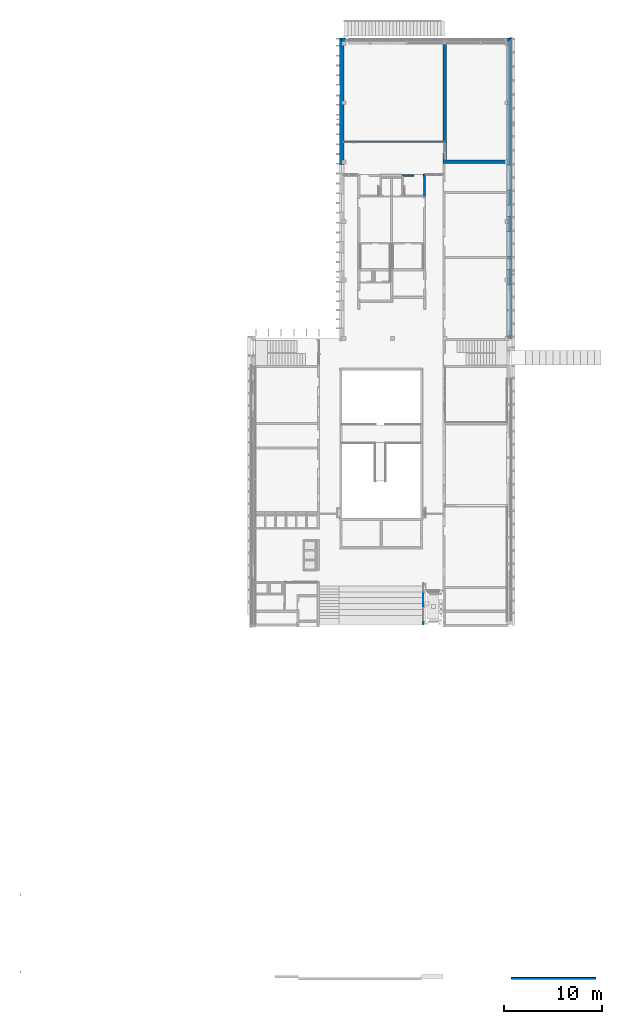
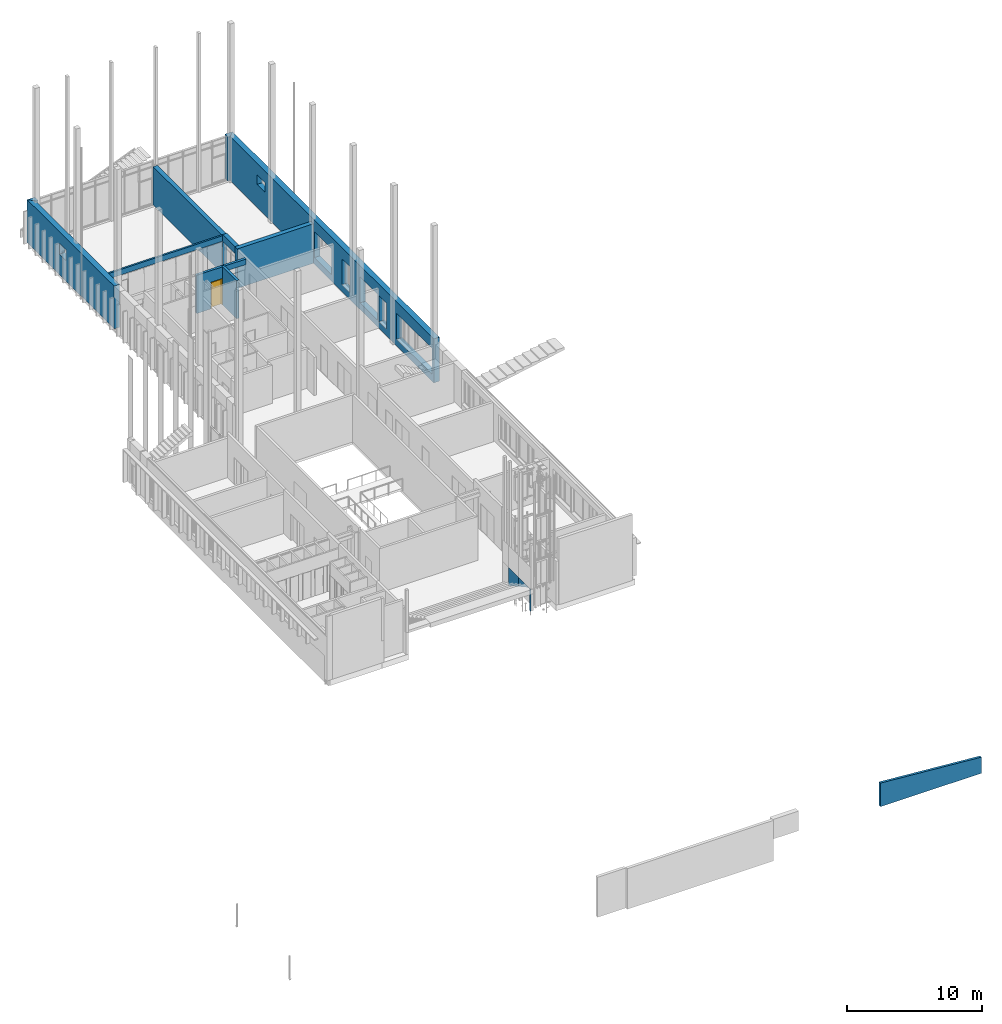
# One storey, part 17 of 89: 14 walls, 1 door, 9 openings.
"""IFC2X3 building model written with IfcOpenShell, lengths in millimetres."""

import ifcopenshell
import ifcopenshell.guid

model = None  # the IFC model being written
_history = None  # IfcOwnerHistory: only IFC2X3 demands one
_inside = {}  # id of a spatial element -> (the spatial element, [elements in it])
_under = {}  # id of a project, library or spatial element -> (it, [spatial elements below it])
_declared = {}  # id of a project -> (the project, [libraries it declares])
_typed = {}  # id of a type object -> (the type object, [elements of that type])
_made_of = {}  # id of a material, layer set ... -> (it, [elements and type objects made of it])


def new_model(schema):
    """Start an empty IFC model of exactly this schema.

    Asked for "IFC4X3", IfcOpenShell would pick the latest addendum, in which some entities
    have other attributes; the version numbers below select the first issue.
    IFC2X3 requires an IfcOwnerHistory on every rooted entity: one is made here for all.
    """
    global model, _history
    if schema == "IFC4X3":
        model = ifcopenshell.file(schema_version=(4, 3, 0, 0))
    else:
        model = ifcopenshell.file(schema=schema)
    _inside.clear()
    _under.clear()
    _declared.clear()
    _typed.clear()
    _made_of.clear()
    _history = None
    if model.schema == "IFC2X3":
        org = make("IfcOrganization", Name="unknown")
        user = make(
            "IfcPersonAndOrganization",
            ThePerson=make("IfcPerson", FamilyName="unknown"),
            TheOrganization=org,
        )
        app = make(
            "IfcApplication",
            ApplicationDeveloper=org,
            Version="unknown",
            ApplicationFullName="unknown",
            ApplicationIdentifier="unknown",
        )
        _history = make(
            "IfcOwnerHistory",
            OwningUser=user,
            OwningApplication=app,
            ChangeAction="ADDED",
            CreationDate=0,
        )
    return model


def make(cls, **values):
    """One entity of the class cls with the attributes given. An attribute that is None is left unset."""
    return model.create_entity(
        cls, **{name: value for name, value in values.items() if value is not None}
    )


def entity(cls, *values):
    """Any entity or typed value of the class cls, its attributes in the order of the schema. None: left unset."""
    e = model.create_entity(cls)
    for i, value in enumerate(values):
        if value is not None:
            e[i] = value
    return e


def rooted(cls, **values):
    """An entity with a GlobalId (a new one), such as an element, a storey or a relation."""
    return make(cls, GlobalId=ifcopenshell.guid.new(), OwnerHistory=_history, **values)


def si_unit(unit_type, name, prefix=None):
    """IfcSIUnit, for example si_unit("LENGTHUNIT", "METRE", prefix="MILLI")."""
    return make("IfcSIUnit", UnitType=unit_type, Prefix=prefix, Name=name)


def converted_unit(unit_type, name, factor, base, dimensions=None, offset=None):
    """IfcConversionBasedUnit, such as the inch: factor (a typed value) times the base unit."""
    return make(
        "IfcConversionBasedUnit"
        if offset is None
        else "IfcConversionBasedUnitWithOffset",
        ConversionOffset=offset,
        Dimensions=None
        if dimensions is None
        else entity("IfcDimensionalExponents", *dimensions),
        UnitType=unit_type,
        Name=name,
        ConversionFactor=make(
            "IfcMeasureWithUnit", ValueComponent=factor, UnitComponent=base
        ),
    )


def derived_unit(unit_type, elements):
    """IfcDerivedUnit: a product of units, each with its exponent."""
    return make(
        "IfcDerivedUnit",
        Elements=[
            make("IfcDerivedUnitElement", Unit=unit, Exponent=power)
            for unit, power in elements
        ],
        UnitType=unit_type,
    )


def money_unit(currency):
    """IfcMonetaryUnit."""
    return make("IfcMonetaryUnit", Currency=currency)


def assignment(units):
    """IfcUnitAssignment: the units of a project."""
    return None if units is None else make("IfcUnitAssignment", Units=units)


def point(xyz):
    """IfcCartesianPoint."""
    return None if xyz is None else make("IfcCartesianPoint", Coordinates=xyz)


def direction(xyz):
    """IfcDirection."""
    return None if xyz is None else make("IfcDirection", DirectionRatios=xyz)


def frame(location, z_axis=None, x_axis=None):
    """IfcAxis2Placement3D, a coordinate frame: its origin and axes. An axis left out is left unset."""
    return make(
        "IfcAxis2Placement3D",
        Location=point(location),
        Axis=direction(z_axis),
        RefDirection=direction(x_axis),
    )


def frame_2d(location, x_axis=None):
    """IfcAxis2Placement2D, a coordinate frame in the plane: its origin and x axis."""
    return make(
        "IfcAxis2Placement2D", Location=point(location), RefDirection=direction(x_axis)
    )


def origin_with_axes():
    """The frame at (0, 0, 0) with the z axis (0, 0, 1) and the x axis (1, 0, 0) written out."""
    return frame((0.0, 0.0, 0.0), z_axis=(0.0, 0.0, 1.0), x_axis=(1.0, 0.0, 0.0))


def origin_2d_with_axis():
    """The frame at (0, 0) in the plane with the x axis (1, 0) written out."""
    return frame_2d((0.0, 0.0), x_axis=(1.0, 0.0))


def place(relative_to, where):
    """IfcLocalPlacement: puts the frame where relative to a parent placement (None: the world)."""
    return make(
        "IfcLocalPlacement", PlacementRelTo=relative_to, RelativePlacement=where
    )


def context(
    kind, dimensions, precision=None, world=None, true_north=None, identifier=None
):
    """IfcGeometricRepresentationContext, for example the 3D "Model" context."""
    return make(
        "IfcGeometricRepresentationContext",
        ContextIdentifier=identifier,
        ContextType=kind,
        CoordinateSpaceDimension=dimensions,
        Precision=precision,
        WorldCoordinateSystem=world,
        TrueNorth=true_north,
    )


def subcontext(parent, identifier, kind, view, scale=None):
    """IfcGeometricRepresentationSubContext, for example "Body" below "Model"."""
    return make(
        "IfcGeometricRepresentationSubContext",
        ContextIdentifier=identifier,
        ContextType=kind,
        ParentContext=parent,
        TargetScale=scale,
        TargetView=view,
    )


def project(units=None, contexts=None):
    """IfcProject with its units and contexts."""
    return rooted(
        "IfcProject",
        Name="project",
        RepresentationContexts=contexts,
        UnitsInContext=assignment(units),
    )


def spatial(cls, under=None, at=None, **own):
    """A site, building, storey or space (cls), placed at a placement, below another one or the project."""
    s = rooted(cls, ObjectPlacement=at, **own)
    if under is not None:
        _under.setdefault(under.id(), (under, []))[1].append(s)
    return s


def polyline(points):
    """IfcPolyline through the points."""
    return make("IfcPolyline", Points=[point(p) for p in points])


def profile(cls, at=None, kind="AREA", **sizes):
    """A parametric profile (cls). Its sizes go by their IFC names, for example OverallWidth=200.0."""
    return make(cls, ProfileType=kind, Position=at, **sizes)


def rectangle(**sizes):
    """IfcRectangleProfileDef."""
    return profile("IfcRectangleProfileDef", **sizes)


def outline(outer, holes=None, kind="AREA"):
    """IfcArbitraryClosedProfileDef: a profile drawn as a closed curve; with holes, ...WithVoids."""
    if holes is None:
        return make("IfcArbitraryClosedProfileDef", ProfileType=kind, OuterCurve=outer)
    return make(
        "IfcArbitraryProfileDefWithVoids",
        ProfileType=kind,
        OuterCurve=outer,
        InnerCurves=holes,
    )


def extrude(swept, where, along, depth):
    """IfcExtrudedAreaSolid: the profile swept, set in the frame where, extruded along a direction by depth."""
    return make(
        "IfcExtrudedAreaSolid",
        SweptArea=swept,
        Position=where,
        ExtrudedDirection=direction(along),
        Depth=depth,
    )


def boolean(op, a, b):
    """IfcBooleanResult of two solids."""
    return make("IfcBooleanResult", Operator=op, FirstOperand=a, SecondOperand=b)


def faces_of(points, faces, orient=None, outer=None):
    """IfcFace entities. A face is a list of loops; a loop is a list of indices into points, from 0.

    orient and outer hold one flag for each loop. By default every Orientation is true, the
    first loop of a face is its IfcFaceOuterBound and the others are IfcFaceBound.
    """
    made = []
    for i, loops in enumerate(faces):
        bounds = []
        for j, loop in enumerate(loops):
            is_outer = j == 0 if outer is None else outer[i][j]
            bounds.append(
                make(
                    "IfcFaceOuterBound" if is_outer else "IfcFaceBound",
                    Bound=make("IfcPolyLoop", Polygon=[points[k] for k in loop]),
                    Orientation=True if orient is None else orient[i][j],
                )
            )
        made.append(make("IfcFace", Bounds=bounds))
    return made


def faceted_brep(points, faces, orient=None, outer=None, voids=None):
    """IfcFacetedBrep: a solid bounded by flat faces; with voids (closed shells), ...WithVoids."""
    shared = [point(p) for p in points]
    hull = make("IfcClosedShell", CfsFaces=faces_of(shared, faces, orient, outer))
    if voids is None:
        return make("IfcFacetedBrep", Outer=hull)
    return make(
        "IfcFacetedBrepWithVoids",
        Outer=hull,
        Voids=[
            make(cls, CfsFaces=faces_of(shared, fs, o, b)) for cls, fs, o, b in voids
        ],
    )


def shape(context_of_items, identifier, shape_type, items):
    """IfcShapeRepresentation: the items that make up one representation, for example the "Body"."""
    return make(
        "IfcShapeRepresentation",
        ContextOfItems=context_of_items,
        RepresentationIdentifier=identifier,
        RepresentationType=shape_type,
        Items=items,
    )


def source(mapping_origin, context_of_items, identifier, shape_type, items):
    """IfcRepresentationMap: a shape defined once, which mapped items show again and again."""
    return make(
        "IfcRepresentationMap",
        MappingOrigin=mapping_origin,
        MappedRepresentation=shape(context_of_items, identifier, shape_type, items),
    )


def transform(
    local_origin,
    x_axis=None,
    y_axis=None,
    z_axis=None,
    scale=None,
    scale2=None,
    scale3=None,
    uniform=True,
):
    """IfcCartesianTransformationOperator3D, or its non-uniform kind. x_axis, y_axis, z_axis: its Axis1, 2, 3."""
    if uniform:
        return make(
            "IfcCartesianTransformationOperator3D",
            Axis1=direction(x_axis),
            Axis2=direction(y_axis),
            LocalOrigin=point(local_origin),
            Scale=scale,
            Axis3=direction(z_axis),
        )
    return make(
        "IfcCartesianTransformationOperator3DnonUniform",
        Axis1=direction(x_axis),
        Axis2=direction(y_axis),
        LocalOrigin=point(local_origin),
        Scale=scale,
        Axis3=direction(z_axis),
        Scale2=scale2,
        Scale3=scale3,
    )


def mapped(mapping_source, mapping_target):
    """IfcMappedItem: shows the shape of a source again, moved by a transform."""
    return make(
        "IfcMappedItem", MappingSource=mapping_source, MappingTarget=mapping_target
    )


def material(Name=None, Category=None):
    """IfcMaterial."""
    return make("IfcMaterial", Name=Name, Category=Category)


def layer(
    of_material, thickness, ventilated=None, Name=None, Category=None, Priority=None
):
    """IfcMaterialLayer: one layer of a wall or slab, of a material (None: an air gap)."""
    return make(
        "IfcMaterialLayer",
        Material=of_material,
        LayerThickness=thickness,
        IsVentilated=ventilated,
        Name=Name,
        Category=Category,
        Priority=Priority,
    )


def layer_set(layers, Name=None):
    """IfcMaterialLayerSet."""
    return make("IfcMaterialLayerSet", MaterialLayers=layers, LayerSetName=Name)


def layer_usage(for_layer_set, set_direction, sense, offset, extent=None):
    """IfcMaterialLayerSetUsage: how a layer set lies in its element."""
    return make(
        "IfcMaterialLayerSetUsage",
        ForLayerSet=for_layer_set,
        LayerSetDirection=set_direction,
        DirectionSense=sense,
        OffsetFromReferenceLine=offset,
        ReferenceExtent=extent,
    )


def made_of(thing, what):
    """Note that an element or type object is made of a material, layer set ...; save() writes the relation."""
    if what is not None:
        _made_of.setdefault(what.id(), (what, []))[1].append(thing)
    return thing


def type_object(cls, material=None, **own):
    """A type object (cls), such as IfcWallType, which elements share."""
    return made_of(rooted(cls, **own), material)


def element(
    cls,
    number,
    at=None,
    inside=None,
    cuts=None,
    type_object=None,
    material=None,
    context=None,
    identifier="Body",
    shape_type=None,
    held_by="IfcProductDefinitionShape",
    body=None,
    shapes=None,
    **own,
):
    """One element of the class cls, such as IfcWall. Its Tag is "e" and its number.

    at: its placement. inside: the storey or other place that contains it. cuts: it is an
    opening in that element (IfcRelVoidsElement). A single representation is given by context,
    identifier, shape_type and body (its items); several are given by shapes. held_by: the class
    of the entity that holds the representations. save() writes the other relations.
    """
    e = rooted(cls, Tag="e%d" % number, ObjectPlacement=at, **own)
    if body is not None:
        shapes = [shape(context, identifier, shape_type, body)]
    if shapes is not None:
        e.Representation = make(held_by, Representations=shapes)
    if inside is not None:
        _inside.setdefault(inside.id(), (inside, []))[1].append(e)
    if cuts is not None:
        rooted(
            "IfcRelVoidsElement", RelatingBuildingElement=cuts, RelatedOpeningElement=e
        )
    if type_object is not None:
        _typed.setdefault(type_object.id(), (type_object, []))[1].append(e)
    return made_of(e, material)


def fill(opening, filler):
    """IfcRelFillsElement: the door or window that sits in an opening."""
    return rooted(
        "IfcRelFillsElement",
        RelatingOpeningElement=opening,
        RelatedBuildingElement=filler,
    )


def aggregate(whole, parts):
    """IfcRelAggregates: a whole, such as a stair, and the parts it consists of."""
    return rooted("IfcRelAggregates", RelatingObject=whole, RelatedObjects=parts)


def save(model, path):
    """Write the relations noted so far, then the file.

    IfcRelAggregates (storeys below a building ...), IfcRelContainedInSpatialStructure (elements
    in a storey), IfcRelDefinesByType, IfcRelAssociatesMaterial and IfcRelDeclares: one each for
    every whole, place, type object, material and project.
    """
    for whole, parts in _under.values():
        aggregate(whole, parts)
    for where, things in _inside.values():
        rooted(
            "IfcRelContainedInSpatialStructure",
            RelatedElements=things,
            RelatingStructure=where,
        )
    for kind, things in _typed.values():
        rooted("IfcRelDefinesByType", RelatedObjects=things, RelatingType=kind)
    for what, things in _made_of.values():
        rooted("IfcRelAssociatesMaterial", RelatedObjects=things, RelatingMaterial=what)
    for by, libraries in _declared.values():
        rooted("IfcRelDeclares", RelatingContext=by, RelatedDefinitions=libraries)
    model.write(path)


model = new_model("IFC2X3")

# Units and contexts
model_context = context("Model", 3, precision=0.01, world=origin_with_axes(), true_north=direction((0.0, 1.0)))
body_context = subcontext(model_context, "Body", "Model", "MODEL_VIEW")
ifc_project = project(units=[si_unit("LENGTHUNIT", "METRE", prefix="MILLI"), si_unit("AREAUNIT", "SQUARE_METRE"), si_unit("VOLUMEUNIT", "CUBIC_METRE"), converted_unit("PLANEANGLEUNIT", "DEGREE", entity("IfcPlaneAngleMeasure", 0.0174532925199), si_unit("PLANEANGLEUNIT", "RADIAN"), dimensions=[0, 0, 0, 0, 0, 0, 0]), si_unit("SOLIDANGLEUNIT", "STERADIAN"), money_unit("EUR"), converted_unit("TIMEUNIT", "Year", entity("IfcTimeMeasure", 31556926.0), si_unit("TIMEUNIT", "SECOND"), dimensions=[0, 0, 1, 0, 0, 0, 0]), si_unit("MASSUNIT", "GRAM", prefix="KILO"), si_unit("THERMODYNAMICTEMPERATUREUNIT", "DEGREE_CELSIUS"), si_unit("LUMINOUSINTENSITYUNIT", "LUMEN"), si_unit("ENERGYUNIT", "JOULE", prefix="MEGA"), derived_unit("THERMALCONDUCTANCEUNIT", [(si_unit("POWERUNIT", "WATT"), 1), (si_unit("LENGTHUNIT", "METRE"), -1), (si_unit("THERMODYNAMICTEMPERATUREUNIT", "KELVIN"), -1)]), derived_unit("SPECIFICHEATCAPACITYUNIT", [(si_unit("ENERGYUNIT", "JOULE"), 1), (si_unit("MASSUNIT", "GRAM", prefix="KILO"), -1), (si_unit("THERMODYNAMICTEMPERATUREUNIT", "KELVIN"), -1)]), derived_unit("MASSDENSITYUNIT", [(si_unit("MASSUNIT", "GRAM", prefix="KILO"), 1), (si_unit("VOLUMEUNIT", "CUBIC_METRE"), -1)])], contexts=[model_context])

# Site, building, storey
site_placement = place(None, origin_with_axes())
site = spatial("IfcSite", under=ifc_project, at=site_placement, Name="Puškini 31, Narva", CompositionType="ELEMENT")
building_placement = place(site_placement, origin_with_axes())
building = spatial("IfcBuilding", under=site, at=building_placement, Name="Narva Riigigümnaasium", CompositionType="ELEMENT")
storey_placement = place(building_placement, frame((0.0, 0.0, -3300.0), z_axis=(0.0, 0.0, 1.0), x_axis=(1.0, 0.0, 0.0)))
storey = spatial("IfcBuildingStorey", under=building, at=storey_placement, Name="1.korrus -3.3", CompositionType="ELEMENT", Elevation=-3300.0)

# Wall
ifc_material_1 = material(Name="KON-06_Raudbetoon - Konstruktsioon")
wall_type_1 = type_object("IfcWallType", Name="KON-06_Raudbetoon - Konstruktsioon 200", PredefinedType="NOTDEFINED")
wall_1_placement = place(storey_placement, frame((54410.000001, 158998.833548, 1180.0), z_axis=(0.0, 0.0, 1.0), x_axis=(1.0, 0.0, 0.0)))
element("IfcWall", 1, at=wall_1_placement, inside=storey, type_object=wall_type_1, material=ifc_material_1, Name="Tugimüür", context=body_context, shape_type="CSG", body=[
    boolean("DIFFERENCE", extrude(outline(polyline([(0.0, -200.0), (8620.84184811, -200.0), (8620.84184811, 0.0), (0.0, 0.0), (0.0, -200.0)])), origin_with_axes(), (0.0, 0.0, 1.0), 2120.00000014), faceted_brep([(8620.84184811, -199.999999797, 1450.33409063), (8620.84184811, 3.89462684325e-07, 1450.33409063), (8620.84184811, 0.0, 2120.00000014), (8620.84184811, -200.0, 2120.00000014), (80.0000003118, 3.89462684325e-07, 2120.00000014), (80.0000003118, -199.999999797, 2120.00000014)], [[[0, 1, 2, 3]], [[4, 1, 0, 5]], [[1, 4, 2]], [[4, 5, 3, 2]], [[5, 0, 3]]])),
])

# Wall, openings
ifc_material_2 = material(Name="fassaadiplaat")
ifc_layer_1 = layer(ifc_material_2, 8.0, ventilated="UNKNOWN")
ifc_material_3 = material(Name="Salto-roovitus")
ifc_layer_2 = layer(ifc_material_3, 50.0, ventilated="UNKNOWN")
ifc_material_4 = material(Name="Salto-PIR soojustus")
ifc_layer_3 = layer(ifc_material_4, 50.0, ventilated="UNKNOWN")
ifc_layer_4 = layer(ifc_material_4, 150.0, ventilated="UNKNOWN")
ifc_material_5 = material(Name="Betoon element")
ifc_layer_5 = layer(ifc_material_5, 200.0, ventilated="UNKNOWN")
ifc_material_6 = material(Name="Salto-siseviimistlus-seinad")
ifc_layer_6 = layer(ifc_material_6, 10.0, ventilated="UNKNOWN")
ifc_layer_set_1 = layer_set([ifc_layer_1, ifc_layer_2, ifc_layer_3, ifc_layer_4, ifc_layer_5, ifc_layer_6], Name="G-VS-01")
ifc_layer_usage_1 = layer_usage(ifc_layer_set_1, "AXIS2", "NEGATIVE", 458.0)
wall_type_2 = type_object("IfcWallType", Name="G-VS-01 468", PredefinedType="NOTDEFINED")
wall_2_placement = place(storey_placement, frame((54000.0000017, 254108.805854, 0.0), z_axis=(0.0, 0.0, 1.0), x_axis=(0.0, -1.0, 0.0)))
wall_2 = element("IfcWallStandardCase", 2, at=wall_2_placement, inside=storey, type_object=wall_type_2, material=ifc_layer_usage_1, Name="Välissein", context=body_context, shape_type="SweptSolid", body=[
    extrude(outline(polyline([(9.99999999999, -10.0), (30098.8058544, -10.0), (30098.8058544, 458.0), (-458.0, 458.0), (9.99999999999, -10.0)])), origin_with_axes(), (0.0, 0.0, 1.0), 3959.99999955),
])
opening_1_placement = place(wall_2_placement, frame((27228.5691061, 0.0, 600.0), z_axis=(0.0, 0.0, 1.0), x_axis=(1.0, 0.0, 0.0)))
element("IfcOpeningElement", 3, at=opening_1_placement, cuts=wall_2, Name="G-A-25", context=body_context, shape_type="SweptSolid", body=[
    extrude(rectangle(XDim=5250.0, YDim=2340.0, at=origin_2d_with_axis()), frame((0.0, 308.0, 1170.0), z_axis=(0.0, -1.0, 0.0), x_axis=(1.0, 0.0, 0.0)), (0.0, 0.0, 1.0), 786.0),
    extrude(rectangle(XDim=5250.0, YDim=2340.0, at=origin_2d_with_axis()), frame((0.0, 308.0, 1170.0), z_axis=(0.0, 1.0, 0.0), x_axis=(1.0, 0.0, 0.0)), (0.0, 0.0, 1.0), 618.0),
])
opening_2_placement = place(wall_2_placement, frame((20478.5691061, 0.0, 600.0), z_axis=(0.0, 0.0, 1.0), x_axis=(1.0, 0.0, 0.0)))
element("IfcOpeningElement", 4, at=opening_2_placement, cuts=wall_2, Name="G-A-15", context=body_context, shape_type="SweptSolid", body=[
    extrude(rectangle(XDim=2550.0, YDim=2340.0, at=origin_2d_with_axis()), frame((0.0, 308.0, 1170.0), z_axis=(0.0, 1.0, 0.0), x_axis=(-1.0, 0.0, 0.0)), (0.0, 0.0, -1.0), 786.0),
    extrude(rectangle(XDim=2550.0, YDim=2340.0, at=origin_2d_with_axis()), frame((0.0, 308.0, 1170.0), z_axis=(0.0, -1.0, 0.0), x_axis=(-1.0, 0.0, 0.0)), (0.0, 0.0, -1.0), 618.0),
])
opening_3_placement = place(wall_2_placement, frame((17103.5691061, 0.0, 600.0), z_axis=(0.0, 0.0, 1.0), x_axis=(1.0, 0.0, 0.0)))
element("IfcOpeningElement", 5, at=opening_3_placement, cuts=wall_2, Name="G-A-06", context=body_context, shape_type="SweptSolid", body=[
    extrude(rectangle(XDim=1200.0, YDim=2340.0, at=origin_2d_with_axis()), frame((0.0, 308.0, 1170.0), z_axis=(0.0, -1.0, 0.0), x_axis=(1.0, 0.0, 0.0)), (0.0, 0.0, 1.0), 786.0),
    extrude(rectangle(XDim=1200.0, YDim=2340.0, at=origin_2d_with_axis()), frame((0.0, 308.0, 1170.0), z_axis=(0.0, 1.0, 0.0), x_axis=(1.0, 0.0, 0.0)), (0.0, 0.0, 1.0), 618.0),
])
opening_4_placement = place(wall_2_placement, frame((13728.5691061, 0.0, 600.0), z_axis=(0.0, 0.0, 1.0), x_axis=(1.0, 0.0, 0.0)))
element("IfcOpeningElement", 6, at=opening_4_placement, cuts=wall_2, Name="G-A-15", context=body_context, shape_type="SweptSolid", body=[
    extrude(rectangle(XDim=2550.0, YDim=2340.0, at=origin_2d_with_axis()), frame((0.0, 308.0, 1170.0), z_axis=(0.0, -1.0, 0.0), x_axis=(1.0, 0.0, 0.0)), (0.0, 0.0, 1.0), 786.0),
    extrude(rectangle(XDim=2550.0, YDim=2340.0, at=origin_2d_with_axis()), frame((0.0, 308.0, 1170.0), z_axis=(0.0, 1.0, 0.0), x_axis=(1.0, 0.0, 0.0)), (0.0, 0.0, 1.0), 618.0),
])
opening_5_placement = place(wall_2_placement, frame((22553.5691061, 0.0, 600.0), z_axis=(0.0, 0.0, 1.0), x_axis=(1.0, 0.0, 0.0)))
element("IfcOpeningElement", 7, at=opening_5_placement, cuts=wall_2, Name="G-A-35", context=body_context, shape_type="SweptSolid", body=[
    extrude(rectangle(XDim=1100.0, YDim=2340.0, at=origin_2d_with_axis()), frame((0.0, 308.0, 1170.0), z_axis=(0.0, -1.0, 0.0), x_axis=(1.0, 0.0, 0.0)), (0.0, 0.0, 1.0), 786.0),
    extrude(rectangle(XDim=1100.0, YDim=2340.0, at=origin_2d_with_axis()), frame((0.0, 308.0, 1170.0), z_axis=(0.0, 1.0, 0.0), x_axis=(1.0, 0.0, 0.0)), (0.0, 0.0, 1.0), 618.0),
])
opening_6_placement = place(wall_2_placement, frame((4563.8084994, 0.0, 2049.99999046), z_axis=(0.0, 0.0, 1.0), x_axis=(1.0, 0.0, 0.0)))
element("IfcOpeningElement", 8, at=opening_6_placement, cuts=wall_2, Name="G-SL-02", context=body_context, shape_type="SweptSolid", body=[
    extrude(rectangle(XDim=1190.0, YDim=890.0, at=origin_2d_with_axis()), frame((0.0, -468.0, 445.0), z_axis=(0.0, -1.0, 0.0), x_axis=(-1.0, 0.0, 0.0)), (0.0, 0.0, -1.0), 1404.0),
])

# Wall, opening
ifc_layer_usage_2 = layer_usage(ifc_layer_set_1, "AXIS2", "POSITIVE", -458.0)
wall_3_placement = place(storey_placement, frame((37400.0000002, 254108.805854, 100.0), z_axis=(0.0, 0.0, 1.0), x_axis=(0.0, -1.0, 0.0)))
wall_3 = element("IfcWallStandardCase", 9, at=wall_3_placement, inside=storey, type_object=wall_type_2, material=ifc_layer_usage_2, Name="Välissein", context=body_context, shape_type="SweptSolid", body=[
    extrude(outline(polyline([(-458.0, -458.0), (12399.5932762, -458.0), (12399.5932762, 10.0), (9.99999999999, 10.0), (-458.0, -458.0)])), origin_with_axes(), (0.0, 0.0, 1.0), 3859.99999955),
])
opening_7_placement = place(wall_3_placement, frame((4824.59327625, 0.0, 1850.0), z_axis=(0.0, 0.0, 1.0), x_axis=(1.0, 0.0, 0.0)))
element("IfcOpeningElement", 10, at=opening_7_placement, cuts=wall_3, Name="G-SL-01", context=body_context, shape_type="SweptSolid", body=[
    extrude(rectangle(XDim=990.0, YDim=990.0, at=origin_2d_with_axis()), frame((0.0, 468.0, 495.0), z_axis=(0.0, 1.0, 0.0), x_axis=(1.0, 0.0, 0.0)), (0.0, 0.0, -1.0), 1404.0),
])

# Walls
wall_4_placement = place(storey_placement, frame((53800.0000018, 254108.805854, 0.0), z_axis=(0.0, 0.0, 1.0), x_axis=(1.0, 0.0, 0.0)))
element("IfcWallStandardCase", 11, at=wall_4_placement, inside=storey, type_object=wall_type_2, material=ifc_layer_usage_1, Name="Välissein", context=body_context, shape_type="SweptSolid", body=[
    extrude(outline(polyline([(0.0, -9.99999999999), (189.99999993, -9.99999999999), (657.99999993, 458.0), (0.0, 458.0), (0.0, -9.99999999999)])), origin_with_axes(), (0.0, 0.0, 1.0), 3960.0),
])
wall_5_placement = place(storey_placement, frame((37400.0000002, 254108.805854, 100.0), z_axis=(0.0, 0.0, 1.0), x_axis=(1.0, 0.0, 0.0)))
element("IfcWallStandardCase", 12, at=wall_5_placement, inside=storey, type_object=wall_type_2, material=ifc_layer_usage_1, Name="Välissein", context=body_context, shape_type="SweptSolid", body=[
    extrude(outline(polyline([(10.0, -9.99999999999), (201.999999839, -9.99999999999), (201.999999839, 458.0), (-458.0, 458.0), (10.0, -9.99999999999)])), origin_with_axes(), (0.0, 0.0, 1.0), 3860.0),
])
ifc_material_7 = material(Name="SKR-02_Kipsplaat")
ifc_layer_7 = layer(ifc_material_7, 12.5, ventilated="UNKNOWN")
ifc_material_8 = material(Name="SOJ-03_Soojustus - Mineraal Pehme")
ifc_layer_8 = layer(ifc_material_8, 100.0, ventilated="UNKNOWN")
ifc_layer_set_2 = layer_set([ifc_layer_7, ifc_layer_7, ifc_layer_8, ifc_layer_7, ifc_layer_7], Name="G-SS-09")
ifc_layer_usage_3 = layer_usage(ifc_layer_set_2, "AXIS2", "NEGATIVE", 0.0)
wall_type_3 = type_object("IfcWallType", Name="G-SS-09 150", PredefinedType="NOTDEFINED")
wall_6_placement = place(storey_placement, frame((47500.0000001, 243960.000057, 2949.39056184), z_axis=(0.0, 0.0, 1.0), x_axis=(-1.0, 0.0, 0.0)))
element("IfcWallStandardCase", 13, at=wall_6_placement, inside=storey, type_object=wall_type_3, material=ifc_layer_usage_3, Name="Sisesein", context=body_context, shape_type="SweptSolid", body=[
    extrude(outline(polyline([(10.0, -150.0), (10089.9999999, -150.0), (10089.9999999, 0.0), (-355.0, 0.0), (10.0, -150.0)])), origin_with_axes(), (0.0, 0.0, 1.0), 495.609438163),
])
ifc_material_9 = material(Name="Klaas")
wall_type_4 = type_object("IfcWallType", Name="Klaas 12", PredefinedType="NOTDEFINED")
wall_7_placement = place(storey_placement, frame((45488.0, 198258.0, 0.0), z_axis=(0.0, 0.0, 1.0), x_axis=(0.0, -1.0, 0.0)))
element("IfcWall", 14, at=wall_7_placement, inside=storey, type_object=wall_type_4, material=ifc_material_9, Name="Sisesein", context=body_context, shape_type="CSG", body=[
    boolean("DIFFERENCE", extrude(outline(polyline([(0.0, -12.0), (1501.0, -12.0), (1501.0, 0.0), (0.0, 0.0), (0.0, -12.0)])), origin_with_axes(), (0.0, 0.0, 1.0), 1979.0), faceted_brep([(0.0, -12.0, 320.024451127), (0.0, 0.0, 320.024451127), (0.0, 0.0, 0.0), (0.0, -12.0, 0.0), (1501.0, 0.0, 1145.57445113), (1501.0, -12.0, 1145.57445113), (1501.0, 0.0, 0.0), (1501.0, -12.0, 0.0)], [[[0, 1, 2, 3]], [[4, 1, 0, 5]], [[1, 4, 6, 2]], [[7, 3, 2, 6]], [[5, 0, 3, 7]], [[4, 5, 7, 6]]])),
])
wall_8_placement = place(storey_placement, frame((45488.0, 196753.0, 0.0), z_axis=(0.0, 0.0, 1.0), x_axis=(0.0, -1.0, 0.0)))
element("IfcWall", 15, at=wall_8_placement, inside=storey, type_object=wall_type_4, material=ifc_material_9, Name="Sisesein", context=body_context, shape_type="CSG", body=[
    boolean("DIFFERENCE", extrude(outline(polyline([(0.0, -12.0), (1827.0, -12.0), (1827.0, 0.0), (0.0, 0.0), (0.0, -12.0)])), origin_with_axes(), (0.0, 0.0, 1.0), 1979.0), faceted_brep([(0.0, -12.0, 1147.77445099), (0.0, 0.0, 1147.77445099), (0.0, 0.0, 0.0), (0.0, -12.0, 0.0), (1511.31918001, 0.0, 1979.0), (1511.31918001, -12.0, 1979.0), (1603.0, 0.0, 1979.0), (1603.0, 0.0, 0.0), (1603.0, -12.0, 0.0), (1603.0, -12.0, 1979.0)], [[[0, 1, 2, 3]], [[4, 1, 0, 5]], [[1, 4, 6, 7, 2]], [[7, 8, 3, 2]], [[5, 0, 3, 8, 9]], [[4, 5, 9, 6]], [[7, 6, 9, 8]]])),
])
ifc_material_10 = material(Name="siseviimistlus-seinad")
ifc_layer_9 = layer(ifc_material_10, 10.0, ventilated="UNKNOWN")
ifc_layer_10 = layer(ifc_material_5, 250.0, ventilated="UNKNOWN")
ifc_material_11 = material(Name="VKR-06_Õhkvahe")
ifc_layer_11 = layer(ifc_material_11, 20.0, ventilated="UNKNOWN")
ifc_layer_12 = layer(ifc_material_8, 50.0, ventilated="UNKNOWN")
ifc_layer_set_3 = layer_set([ifc_layer_9, ifc_layer_10, ifc_layer_11, ifc_layer_12, ifc_layer_7, ifc_layer_7, ifc_layer_9], Name="G-SS-08")
ifc_layer_usage_4 = layer_usage(ifc_layer_set_3, "AXIS2", "POSITIVE", -10.0)
wall_type_5 = type_object("IfcWallType", Name="G-SS-08 365", PredefinedType="NOTDEFINED")
wall_9_placement = place(storey_placement, frame((47499.6667219, 241804.999975, 0.0), z_axis=(0.0, 0.0, 1.0), x_axis=(1.0, 0.0, 0.0)))
element("IfcWallStandardCase", 16, at=wall_9_placement, inside=storey, type_object=wall_type_5, material=ifc_layer_usage_4, Name="Sisesein", context=body_context, shape_type="SweptSolid", body=[
    extrude(outline(polyline([(0.0, -9.99999999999), (6490.33327989, -9.99999999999), (6490.33327989, 355.0), (0.0, 355.0), (0.0, -9.99999999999)])), origin_with_axes(), (0.0, 0.0, 1.0), 3560.0),
])
wall_10_placement = place(storey_placement, frame((47500.0000001, 254230.0, 0.0), z_axis=(0.0, 0.0, 1.0), x_axis=(0.0, -1.0, 0.0)))
element("IfcWallStandardCase", 17, at=wall_10_placement, inside=storey, type_object=wall_type_5, material=ifc_layer_usage_4, Name="Sisesein", context=body_context, shape_type="SweptSolid", body=[
    extrude(outline(polyline([(0.0, -10.0), (10269.9999429, -10.0), (10269.9999429, 355.0), (0.0, 355.0), (0.0, -10.0)])), origin_with_axes(), (0.0, 0.0, 1.0), 3445.0),
])
ifc_layer_usage_5 = layer_usage(ifc_layer_set_3, "AXIS2", "NEGATIVE", 0.0)
wall_11_placement = place(storey_placement, frame((47490.0000001, 242150.000057, 2950.0), z_axis=(0.0, 0.0, 1.0), x_axis=(0.0, 1.0, 0.0)))
element("IfcWallStandardCase", 18, at=wall_11_placement, inside=storey, type_object=wall_type_5, material=ifc_layer_usage_5, Name="Sisesein", context=body_context, shape_type="SweptSolid", body=[
    extrude(outline(polyline([(0.0, -365.0), (1810.0, -365.0), (1810.0, 0.0), (0.0, 0.0), (0.0, -365.0)])), origin_with_axes(), (0.0, 0.0, 1.0), 610.0),
])
ifc_layer_13 = layer(ifc_material_10, 15.0, ventilated="UNKNOWN")
ifc_material_12 = material(Name="õõnes betoonplokk")
ifc_layer_14 = layer(ifc_material_12, 190.0, ventilated="UNKNOWN")
ifc_layer_set_4 = layer_set([ifc_layer_13, ifc_layer_14, ifc_layer_9], Name="G-SS-02-03")
ifc_layer_usage_6 = layer_usage(ifc_layer_set_4, "AXIS2", "NEGATIVE", 15.0)
wall_type_6 = type_object("IfcWallType", Name="G-SS-02-03 215", PredefinedType="NOTDEFINED")
wall_12_placement = place(storey_placement, frame((45510.0000001, 238434.99996, 0.0), z_axis=(0.0, 0.0, 1.0), x_axis=(0.0, 1.0, 0.0)))
element("IfcWallStandardCase", 19, at=wall_12_placement, inside=storey, type_object=wall_type_6, material=ifc_layer_usage_6, Name="Sisesein", context=body_context, shape_type="SweptSolid", body=[
    extrude(outline(polyline([(-2.67334598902e-07, -200.0), (2065.00004059, -200.0), (2275.00004059, 15.0), (2.00373051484e-08, 15.0), (-2.67334598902e-07, -200.0)])), origin_with_axes(), (0.0, 0.0, 1.0), 3445.0),
])

# Wall, opening, door
ifc_layer_usage_7 = layer_usage(ifc_layer_set_4, "AXIS2", "POSITIVE", -15.0)
wall_13_placement = place(storey_placement, frame((43284.9999999, 240510.000001, 0.0), z_axis=(0.0, 0.0, 1.0), x_axis=(1.0, 0.0, 0.0)))
wall_13 = element("IfcWallStandardCase", 20, at=wall_13_placement, inside=storey, type_object=wall_type_6, material=ifc_layer_usage_7, Name="Sisesein", context=body_context, shape_type="SweptSolid", body=[
    extrude(outline(polyline([(0.0, -15.0), (2210.00000021, -15.0), (2210.00000021, 200.0), (0.0, 200.0), (0.0, -15.0)])), origin_with_axes(), (0.0, 0.0, 1.0), 3445.0),
])
opening_8_placement = place(wall_13_placement, frame((1715.00000021, 0.0, 0.0), z_axis=(0.0, 0.0, 1.0), x_axis=(1.0, 0.0, 0.0)))
opening_8 = element("IfcOpeningElement", 21, at=opening_8_placement, cuts=wall_13, Name="G-SU-046", context=body_context, shape_type="SweptSolid", body=[
    extrude(rectangle(XDim=1000.0, YDim=2400.0, at=origin_2d_with_axis()), frame((0.0, 215.0, 1200.0), z_axis=(0.0, -1.0, 0.0), x_axis=(1.0, 0.0, 0.0)), (0.0, 0.0, 1.0), 645.0),
])
door_style = type_object("IfcDoorStyle", Name="Door 23", ConstructionType="NOTDEFINED", OperationType="SINGLE_SWING_RIGHT", ParameterTakesPrecedence=False, Sizeable=False)
shared_shape = source(origin_with_axes(), body_context, "Body", "Brep", [
    faceted_brep([(-460.0, -40.0, 0.0), (-460.0, -40.0, 2360.0), (-460.0, -215.0, 2360.0), (-460.0, -215.0, 0.0), (-472.0, -40.0, 2360.0), (-472.0, -40.0, 0.0), (-472.0, 0.0, 2360.0), (-500.0, 0.0, 2360.0), (-500.0, -215.0, 2360.0), (-500.0, -215.0, 0.0), (-500.0, 0.0, 0.0), (-472.0, 0.0, 0.0)], [[[0, 1, 2, 3]], [[4, 1, 0, 5]], [[4, 6, 7, 8, 2, 1]], [[3, 2, 8, 9]], [[5, 0, 3, 9, 10, 11]], [[6, 4, 5, 11]], [[6, 11, 10, 7]], [[10, 9, 8, 7]]]),
    faceted_brep([(472.0, -40.0, 2360.0), (460.0, -40.0, 2360.0), (460.0, -215.0, 2360.0), (500.0, -215.0, 2360.0), (500.0, 0.0, 2360.0), (472.0, 0.0, 2360.0), (472.0, -40.0, 0.0), (460.0, -40.0, 0.0), (460.0, -215.0, 0.0), (500.0, -215.0, 0.0), (500.0, 0.0, 0.0), (472.0, 0.0, 0.0)], [[[0, 1, 2, 3, 4, 5]], [[1, 0, 6, 7]], [[1, 7, 8, 2]], [[3, 2, 8, 9]], [[4, 3, 9, 10]], [[11, 5, 4, 10]], [[0, 5, 11, 6]], [[6, 11, 10, 9, 8, 7]]]),
    faceted_brep([(-472.0, 0.0, 2372.0), (-472.0, 0.0, 2360.0), (-500.0, 0.0, 2360.0), (-500.0, 0.0, 2400.0), (500.0, 0.0, 2400.0), (500.0, 0.0, 2360.0), (472.0, 0.0, 2360.0), (472.0, 0.0, 2372.0), (-472.0, -40.0, 2372.0), (-472.0, -40.0, 2360.0), (-460.0, -40.0, 2360.0), (-460.0, -215.0, 2360.0), (-500.0, -215.0, 2360.0), (-500.0, -215.0, 2400.0), (500.0, -215.0, 2400.0), (500.0, -215.0, 2360.0), (472.0, -40.0, 2360.0), (460.0, -215.0, 2360.0), (460.0, -40.0, 2360.0), (472.0, -40.0, 2372.0)], [[[0, 1, 2, 3, 4, 5, 6, 7]], [[1, 0, 8, 9]], [[9, 10, 11, 12, 2, 1]], [[2, 12, 13, 3]], [[3, 13, 14, 4]], [[4, 14, 15, 5]], [[16, 6, 5, 15, 17, 18]], [[7, 6, 16, 19]], [[0, 7, 19, 8]], [[16, 18, 10, 9, 8, 19]], [[10, 18, 17, 11]], [[17, 15, 14, 13, 12, 11]]]),
    faceted_brep([(472.0, 0.0, 0.0), (472.0, -40.0, 0.0), (-472.0, -40.0, 0.0), (-472.0, 0.0, 0.0), (472.0, 0.0, 2372.0), (472.0, -40.0, 2372.0), (-472.0, -40.0, 2372.0), (-472.0, 0.0, 2372.0)], [[[0, 1, 2, 3]], [[4, 5, 1, 0]], [[1, 5, 6, 2]], [[3, 2, 6, 7]], [[0, 3, 7, 4]], [[7, 6, 5, 4]]]),
])
door_placement = place(opening_8_placement, frame((-500.0, 0.0, 0.0), z_axis=(0.0, 0.0, 1.0), x_axis=(1.0, 0.0, 0.0)))
door = element("IfcDoor", 22, at=door_placement, inside=storey, type_object=door_style, Name="G-SU-046", ObjectType="DOOR", OverallHeight=2400.0, OverallWidth=1000.0, context=body_context, shape_type="MappedRepresentation", body=[
    mapped(shared_shape, transform((500.0, 200.0, 0.0))),
])
fill(opening_8, door)

# Wall, opening
ifc_layer_set_5 = layer_set([ifc_layer_9, ifc_layer_14, ifc_layer_9], Name="G-SS-02")
ifc_layer_usage_8 = layer_usage(ifc_layer_set_5, "AXIS2", "NEGATIVE", 10.0)
wall_type_7 = type_object("IfcWallType", Name="G-SS-02 210", PredefinedType="NOTDEFINED")
wall_14_placement = place(storey_placement, frame((45510.0000001, 240700.000001, 0.0), z_axis=(0.0, 0.0, 1.0), x_axis=(1.0, 0.0, 0.0)))
wall_14 = element("IfcWallStandardCase", 23, at=wall_14_placement, inside=storey, type_object=wall_type_7, material=ifc_layer_usage_8, Name="Sisesein", context=body_context, shape_type="SweptSolid", body=[
    extrude(outline(polyline([(200.0, -200.0), (1989.99999997, -200.0), (1989.99999997, 10.0), (-15.0, 10.0), (200.0, -200.0)])), origin_with_axes(), (0.0, 0.0, 1.0), 3445.0),
])
opening_9_placement = place(wall_14_placement, frame((1089.99999998, 0.0, 0.0), z_axis=(0.0, 0.0, 1.0), x_axis=(1.0, 0.0, 0.0)))
element("IfcOpeningElement", 24, at=opening_9_placement, cuts=wall_14, Name="ava", context=body_context, shape_type="SweptSolid", body=[
    extrude(rectangle(XDim=1799.99999997, YDim=2950.0, at=origin_2d_with_axis()), frame((0.0, -60.0, 1475.0), z_axis=(0.0, 1.0, 0.0), x_axis=(1.0, 0.0, 0.0)), (0.0, 0.0, -1.0), 350.0),
    extrude(rectangle(XDim=1799.99999997, YDim=2950.0, at=origin_2d_with_axis()), frame((0.0, -60.0, 1475.0), z_axis=(0.0, -1.0, 0.0), x_axis=(1.0, 0.0, 0.0)), (0.0, 0.0, -1.0), 350.0),
])

save(model, "model.ifc")
